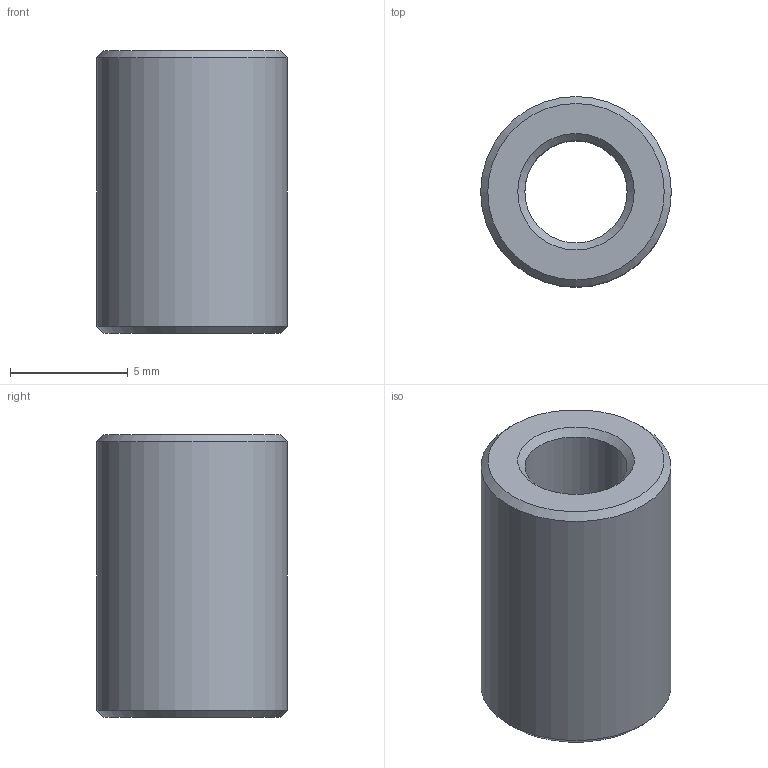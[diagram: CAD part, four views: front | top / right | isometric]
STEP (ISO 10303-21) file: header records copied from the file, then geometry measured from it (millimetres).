
FILE_DESCRIPTION(('Open CASCADE Model'),'2;1');
FILE_NAME('Open CASCADE Shape Model','2026-11-05T10:33:08',('Author'),( 'Open CASCADE'),'Open CASCADE STEP processor 8.0','build123d', 'Unknown');
FILE_SCHEMA(('AUTOMOTIVE_DESIGN { 1 0 10303 214 1 1 1 1 }'));
Length unit declared in the file: millimetre
Products named in the file (1): COMPOUND
Bounding box: 8.1 x 8.1 x 12 mm (x, y, z)
Volume: 436.5 mm3; surface area: 528.9 mm2
Topology: 1 solids, 1 shells, 8 faces, 14 edges, 8 vertices
Faces by surface type: cone 4, cylinder 2, plane 2
Full cylindrical faces by diameter (mm): 4.35 x1, 8.1 x1
Entity records: 382 total; most frequent: CARTESIAN_POINT 67, DIRECTION 60, ORIENTED_EDGE 28, PCURVE 28, DEFINITIONAL_REPRESENTATION 28, LINE 22, VECTOR 22, AXIS2_PLACEMENT_3D 17
